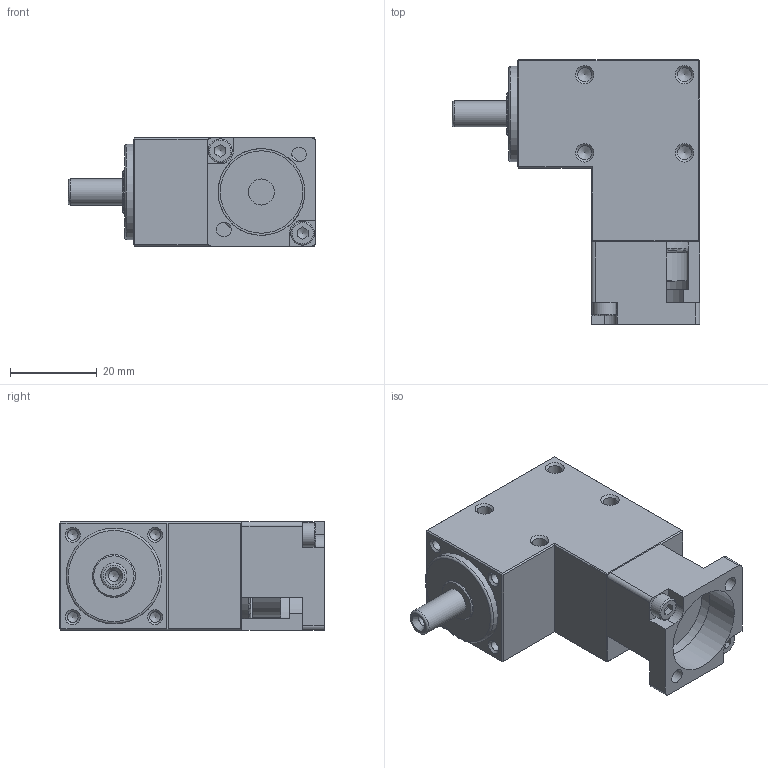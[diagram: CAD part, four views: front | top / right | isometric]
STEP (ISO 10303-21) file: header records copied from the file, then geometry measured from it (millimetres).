
FILE_DESCRIPTION((''),'2;1');
FILE_NAME('D:\유성\SBT 베벨기어박스\최종도면모음\3D\SBT025\SBT025MLS001S.stp','2014-05-16T12:07:03',('nagyu'),(''),'Autodesk Inventor 2013','Autodesk Inventor 2013','');
FILE_SCHEMA(('AUTOMOTIVE_DESIGN { 1 0 10303 214 1 1 1 1 }'));
Length unit declared in the file: millimetre
Products named in the file (1): SBT025MLS001S_Shrinkwrap_1
Bounding box: 57 x 61 x 25 mm (x, y, z)
Volume: 43179.2 mm3; surface area: 13053 mm2
Topology: 1 solids, 3 shells, 156 faces, 373 edges, 225 vertices
Faces by surface type: plane 81, cylinder 37, cone 31, torus 7
Full cylindrical faces by diameter (mm): 2.459 x5, 3 x2, 3.242 x8, 3.4 x4, 5.5 x2, 6 x2, 9.9 x2, 19 x1, 20 x1, 22 x2
Entity records: 3980 total; most frequent: DIRECTION 687, CARTESIAN_POINT 678, ORIENTED_EDGE 572, EDGE_CURVE 286, AXIS2_PLACEMENT_3D 260, EDGE_LOOP 239, VERTEX_POINT 203, VECTOR 167
